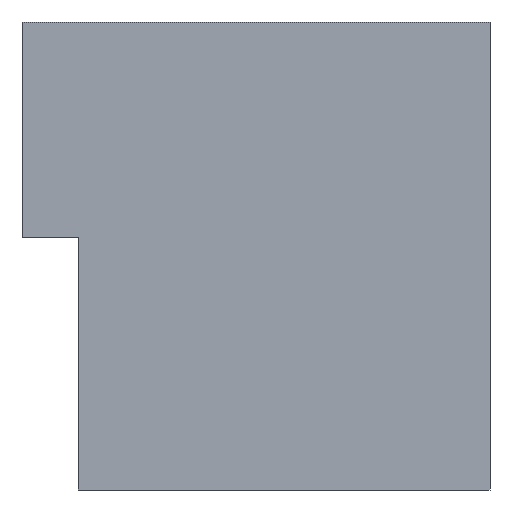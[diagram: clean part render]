
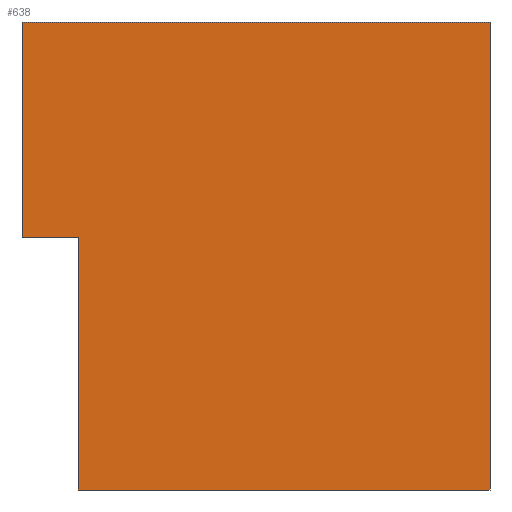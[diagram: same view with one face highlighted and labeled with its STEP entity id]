
A CAD part, front view. The second image highlights one B-rep face of the part: STEP entity #638.
In plain terms, the highlighted planar face has unit normal (0, -1, 0).
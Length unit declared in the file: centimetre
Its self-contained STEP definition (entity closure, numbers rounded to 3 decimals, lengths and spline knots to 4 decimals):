
#5 = EDGE_CURVE ( 'NONE', #56, #477, #452, .T. ) ;
#20 = DIRECTION ( 'NONE',  ( 1., 0., 0. ) ) ;
#27 = FACE_OUTER_BOUND ( 'NONE', #390, .T. ) ;
#39 = ORIENTED_EDGE ( 'NONE', *, *, #624, .F. ) ;
#50 = VECTOR ( 'NONE', #20, 100. ) ;
#56 = VERTEX_POINT ( 'NONE', #329 ) ;
#70 = CARTESIAN_POINT ( 'NONE',  ( 1000., 0., 1000. ) ) ;
#73 = VECTOR ( 'NONE', #494, 100. ) ;
#85 = CARTESIAN_POINT ( 'NONE',  ( 1000., 0., 0. ) ) ;
#106 = CARTESIAN_POINT ( 'NONE',  ( 0., 0., 1000. ) ) ;
#134 = LINE ( 'NONE', #560, #50 ) ;
#152 = VECTOR ( 'NONE', #437, 100. ) ;
#161 = DIRECTION ( 'NONE',  ( 0., 0., -1. ) ) ;
#164 = LINE ( 'NONE', #660, #152 ) ;
#172 = DIRECTION ( 'NONE',  ( -1., 0., 0. ) ) ;
#200 = VECTOR ( 'NONE', #161, 100. ) ;
#205 = VERTEX_POINT ( 'NONE', #70 ) ;
#212 = ORIENTED_EDGE ( 'NONE', *, *, #642, .F. ) ;
#240 = PLANE ( 'NONE',  #388 ) ;
#315 = ORIENTED_EDGE ( 'NONE', *, *, #457, .T. ) ;
#329 = CARTESIAN_POINT ( 'NONE',  ( 120.1466, 0., 539.2172 ) ) ;
#338 = VECTOR ( 'NONE', #172, 100. ) ;
#342 = CARTESIAN_POINT ( 'NONE',  ( 120.1466, 0., 539.2172 ) ) ;
#352 = LINE ( 'NONE', #342, #338 ) ;
#370 = CARTESIAN_POINT ( 'NONE',  ( 0., 0., 0. ) ) ;
#375 = VECTOR ( 'NONE', #474, 100. ) ;
#378 = EDGE_CURVE ( 'NONE', #477, #705, #538, .T. ) ;
#388 = AXIS2_PLACEMENT_3D ( 'NONE', #454, #573, #669 ) ;
#390 = EDGE_LOOP ( 'NONE', ( #212, #404, #555, #606, #39, #315 ) ) ;
#404 = ORIENTED_EDGE ( 'NONE', *, *, #5, .T. ) ;
#437 = DIRECTION ( 'NONE',  ( 0., 0., -1. ) ) ;
#452 = LINE ( 'NONE', #507, #200 ) ;
#454 = CARTESIAN_POINT ( 'NONE',  ( 0., 0., 1000. ) ) ;
#457 = EDGE_CURVE ( 'NONE', #548, #659, #500, .T. ) ;
#474 = DIRECTION ( 'NONE',  ( 1., 0., 0. ) ) ;
#477 = VERTEX_POINT ( 'NONE', #497 ) ;
#494 = DIRECTION ( 'NONE',  ( 0., 0., -1. ) ) ;
#496 = EDGE_CURVE ( 'NONE', #205, #705, #164, .T. ) ;
#497 = CARTESIAN_POINT ( 'NONE',  ( 120.1466, 0., 0. ) ) ;
#500 = LINE ( 'NONE', #649, #73 ) ;
#507 = CARTESIAN_POINT ( 'NONE',  ( 120.1466, 0., 539.2172 ) ) ;
#508 = CARTESIAN_POINT ( 'NONE',  ( 0., 0., 539.2172 ) ) ;
#538 = LINE ( 'NONE', #370, #375 ) ;
#548 = VERTEX_POINT ( 'NONE', #106 ) ;
#555 = ORIENTED_EDGE ( 'NONE', *, *, #378, .T. ) ;
#560 = CARTESIAN_POINT ( 'NONE',  ( 0., 0., 1000. ) ) ;
#573 = DIRECTION ( 'NONE',  ( 0., 1., 0. ) ) ;
#606 = ORIENTED_EDGE ( 'NONE', *, *, #496, .F. ) ;
#624 = EDGE_CURVE ( 'NONE', #548, #205, #134, .T. ) ;
#638 = ADVANCED_FACE ( 'NONE', ( #27 ), #240, .F. ) ;
#642 = EDGE_CURVE ( 'NONE', #56, #659, #352, .T. ) ;
#649 = CARTESIAN_POINT ( 'NONE',  ( 0., 0., 1000. ) ) ;
#659 = VERTEX_POINT ( 'NONE', #508 ) ;
#660 = CARTESIAN_POINT ( 'NONE',  ( 1000., 0., 1000. ) ) ;
#669 = DIRECTION ( 'NONE',  ( 0., 0., 1. ) ) ;
#705 = VERTEX_POINT ( 'NONE', #85 ) ;
